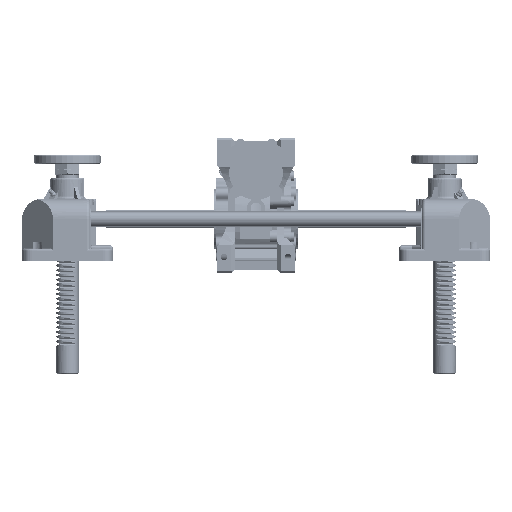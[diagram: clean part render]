
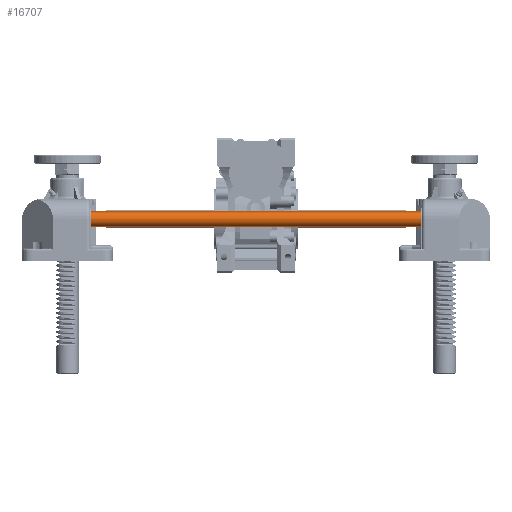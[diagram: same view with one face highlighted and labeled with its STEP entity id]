
A CAD part, left-side view. The second image highlights one B-rep face of the part: STEP entity #16707.
In plain terms, the highlighted cylindrical face has radius 10 mm (diameter 20 mm), a full revolution.
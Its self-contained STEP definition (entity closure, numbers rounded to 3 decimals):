
#16707=ADVANCED_FACE('',(#38167,#38168),#38169,.T.);
#38167=FACE_OUTER_BOUND('',#81021,.T.);
#38168=FACE_OUTER_BOUND('',#81022,.T.);
#38169=CYLINDRICAL_SURFACE('',#81023,10.0);
#81021=EDGE_LOOP('',(#167239));
#81022=EDGE_LOOP('',(#167240));
#81023=AXIS2_PLACEMENT_3D('',#167241,#167242,#167243);
#167239=ORIENTED_EDGE('',*,*,#211984,.T.);
#167240=ORIENTED_EDGE('',*,*,#211981,.T.);
#167241=CARTESIAN_POINT('',(0.0,0.0,537.4));
#167242=DIRECTION('',(0.0,0.0,-1.0));
#167243=DIRECTION('',(-1.0,0.0,0.0));
#211981=EDGE_CURVE('',#276906,#276906,#276907,.F.);
#211984=EDGE_CURVE('',#276912,#276912,#276913,.T.);
#276906=VERTEX_POINT('',#397968);
#276907=CIRCLE('',#397969,10.0);
#276912=VERTEX_POINT('',#397974);
#276913=CIRCLE('',#397975,10.0);
#397968=CARTESIAN_POINT('',(10.0,0.0,536.4));
#397969=AXIS2_PLACEMENT_3D('',#449543,#449544,#449545);
#397974=CARTESIAN_POINT('',(10.0,0.0,1.0));
#397975=AXIS2_PLACEMENT_3D('',#449552,#449553,#449554);
#449543=CARTESIAN_POINT('',(0.0,0.0,536.4));
#449544=DIRECTION('',(0.0,0.0,1.0));
#449545=DIRECTION('',(1.0,0.0,0.0));
#449552=CARTESIAN_POINT('',(0.0,0.0,1.0));
#449553=DIRECTION('',(0.0,0.0,1.0));
#449554=DIRECTION('',(1.0,0.0,0.0));
